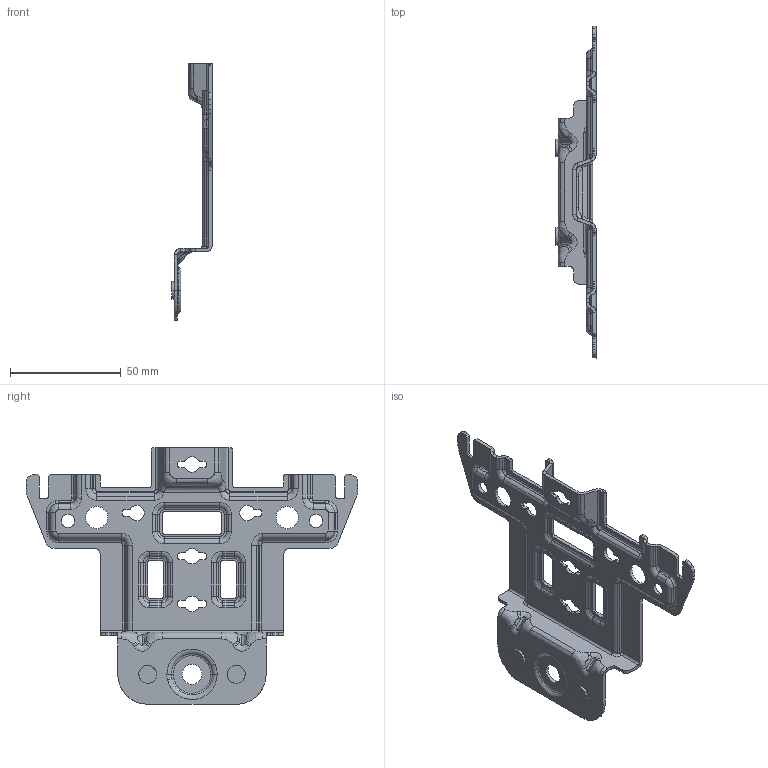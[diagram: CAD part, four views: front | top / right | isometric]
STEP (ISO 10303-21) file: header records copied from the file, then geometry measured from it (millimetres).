
FILE_DESCRIPTION(('CATIA V5 STEP Exchange'),'2;1');
FILE_NAME('E:\吉利商用车G3\3D\新开件\SHT0015265.stp','2022-12-11T06:43:33+00:00',('none'),('none'),'CATIA Version 5 Release 20 GA (IN-10)','CATIA V5 STEP AP214','none');
FILE_SCHEMA(('AUTOMOTIVE_DESIGN { 1 0 10303 214 1 1 1 1 }'));
Products named in the file (1): Part98
Bounding box: 18.13 x 150 x 115.87 mm (x, y, z)
Volume: 16066.8 mm3; surface area: 23089.2 mm2
Topology: 1 solids, 1 shells, 780 faces, 2094 edges, 1328 vertices
Faces by surface type: cylinder 456, plane 162, bspline 88, torus 74
Entity records: 62367 total; most frequent: CARTESIAN_POINT 44615, ORIENTED_EDGE 4188, DIRECTION 2757, EDGE_CURVE 2094, VERTEX_POINT 1328, AXIS2_PLACEMENT_3D 1280, EDGE_LOOP 818, VECTOR 807
